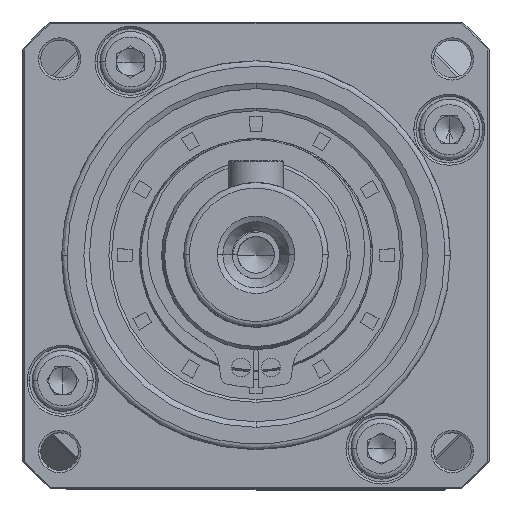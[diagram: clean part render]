
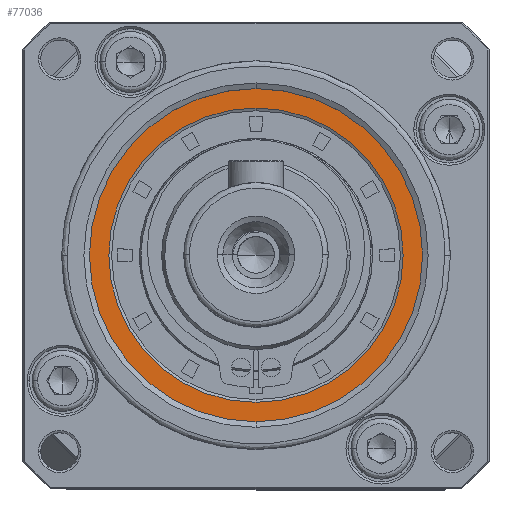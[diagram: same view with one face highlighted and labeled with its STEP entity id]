
A CAD part, top view. The second image highlights one B-rep face of the part: STEP entity #77036.
In plain terms, the highlighted planar face has unit normal (0, 0, 1).
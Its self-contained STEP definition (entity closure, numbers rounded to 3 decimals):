
#4517 = CARTESIAN_POINT ( 'NONE',  ( 18.492, 24.541, 104.093 ) ) ;
#5661 = DIRECTION ( 'NONE',  ( 0., 0., 1. ) ) ;
#6849 = VERTEX_POINT ( 'NONE', #69406 ) ;
#7779 = CARTESIAN_POINT ( 'NONE',  ( 18.492, 37.791, 104.093 ) ) ;
#9966 = DIRECTION ( 'NONE',  ( 0., -1., 0. ) ) ;
#10383 = ORIENTED_EDGE ( 'NONE', *, *, #15568, .T. ) ;
#12012 = AXIS2_PLACEMENT_3D ( 'NONE', #24976, #5661, #76002 ) ;
#13786 = AXIS2_PLACEMENT_3D ( 'NONE', #4517, #103054, #42240 ) ;
#15568 = EDGE_CURVE ( 'NONE', #46929, #6849, #123444, .T. ) ;
#17507 = EDGE_CURVE ( 'NONE', #20637, #110545, #127319, .T. ) ;
#19877 = ORIENTED_EDGE ( 'NONE', *, *, #28851, .T. ) ;
#20637 = VERTEX_POINT ( 'NONE', #7779 ) ;
#24976 = CARTESIAN_POINT ( 'NONE',  ( 18.492, 24.541, 104.093 ) ) ;
#26828 = DIRECTION ( 'NONE',  ( 1., 0., 0. ) ) ;
#28851 = EDGE_CURVE ( 'NONE', #110545, #20637, #55532, .T. ) ;
#36940 = ORIENTED_EDGE ( 'NONE', *, *, #17507, .T. ) ;
#39927 = AXIS2_PLACEMENT_3D ( 'NONE', #87239, #48311, #26828 ) ;
#42240 = DIRECTION ( 'NONE',  ( 1., 0., 0. ) ) ;
#46929 = VERTEX_POINT ( 'NONE', #85182 ) ;
#48311 = DIRECTION ( 'NONE',  ( 0., 0., 1. ) ) ;
#48767 = CARTESIAN_POINT ( 'NONE',  ( 18.492, 11.291, 104.093 ) ) ;
#55532 = CIRCLE ( 'NONE', #69439, 13.25 ) ;
#56589 = ORIENTED_EDGE ( 'NONE', *, *, #77839, .T. ) ;
#57604 = CIRCLE ( 'NONE', #39927, 15. ) ;
#63369 = CARTESIAN_POINT ( 'NONE',  ( 18.492, 24.541, 104.093 ) ) ;
#65833 = PLANE ( 'NONE',  #12012 ) ;
#69406 = CARTESIAN_POINT ( 'NONE',  ( 33.492, 24.541, 104.093 ) ) ;
#69439 = AXIS2_PLACEMENT_3D ( 'NONE', #63369, #94300, #103511 ) ;
#70626 = DIRECTION ( 'NONE',  ( 0., 0., -1. ) ) ;
#72754 = EDGE_LOOP ( 'NONE', ( #56589, #10383 ) ) ;
#76002 = DIRECTION ( 'NONE',  ( 1., 0., 0. ) ) ;
#77036 = ADVANCED_FACE ( 'NONE', ( #77925, #124028 ), #65833, .T. ) ;
#77839 = EDGE_CURVE ( 'NONE', #6849, #46929, #57604, .T. ) ;
#77925 = FACE_OUTER_BOUND ( 'NONE', #72754, .T. ) ;
#85182 = CARTESIAN_POINT ( 'NONE',  ( 3.492, 24.541, 104.093 ) ) ;
#87239 = CARTESIAN_POINT ( 'NONE',  ( 18.492, 24.541, 104.093 ) ) ;
#94208 = AXIS2_PLACEMENT_3D ( 'NONE', #121271, #70626, #9966 ) ;
#94300 = DIRECTION ( 'NONE',  ( 0., 0., -1. ) ) ;
#103054 = DIRECTION ( 'NONE',  ( 0., 0., 1. ) ) ;
#103511 = DIRECTION ( 'NONE',  ( 0., -1., 0. ) ) ;
#104328 = EDGE_LOOP ( 'NONE', ( #19877, #36940 ) ) ;
#110545 = VERTEX_POINT ( 'NONE', #48767 ) ;
#121271 = CARTESIAN_POINT ( 'NONE',  ( 18.492, 24.541, 104.093 ) ) ;
#123444 = CIRCLE ( 'NONE', #13786, 15. ) ;
#124028 = FACE_BOUND ( 'NONE', #104328, .T. ) ;
#127319 = CIRCLE ( 'NONE', #94208, 13.25 ) ;
